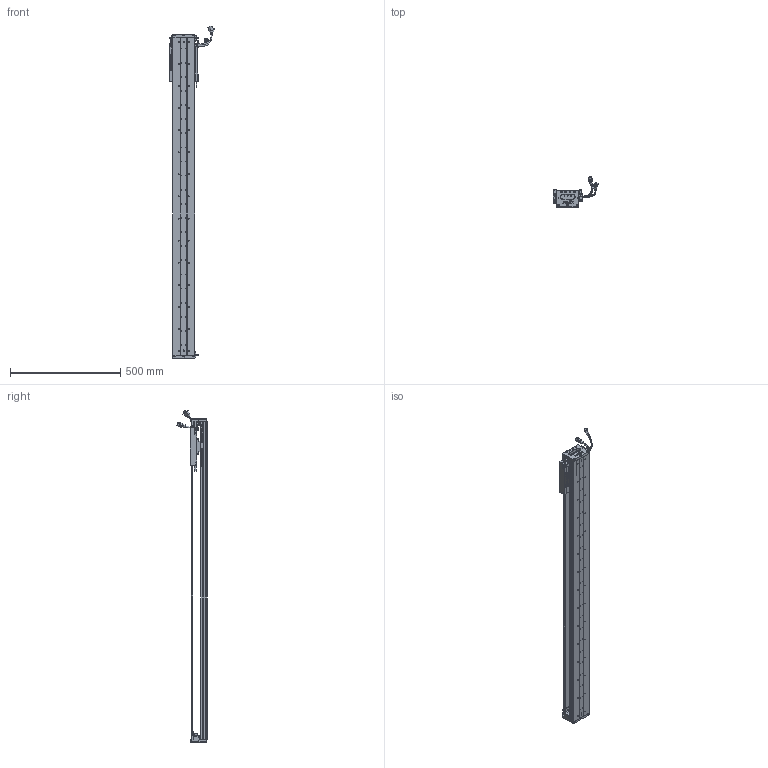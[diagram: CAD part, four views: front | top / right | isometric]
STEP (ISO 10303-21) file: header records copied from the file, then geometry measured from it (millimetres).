
FILE_DESCRIPTION (( 'STEP AP203' ), '1' );
FILE_NAME ('Z2-RY100D-1-L500-B-K.SLDASM_1200.step', '2021-05-17T02:36:05', ( '盈信电脑' ), ( '东莞市道滘镇水果街19号' ), 'SwSTEP 2.0', 'SolidWorks 2016', '' );
FILE_SCHEMA (( 'CONFIG_CONTROL_DESIGN' ));
Length unit declared in the file: millimetre
Products named in the file (36): Z-100詩湍傷裔啣; SCREW-M1.6-3; Z2-RY100铝滑块（21款）; HARNESS-Part-1; HARNESS-Part-2; SCALE-Part-2; LABEL-Part-1; SHIELDPLATE; COVER-Part-1; 100-Z-臏賑輸盄裔(21遴); SCREW-M1.6; SCREW-M1.6-1; HARNESS; SCREW-M1.7-1; SCALE; Z-RY100D覜茼んえ; LABEL; PSLH080_PSLF2; 080黍杅芛假蚾釱21遴; COVER; SCREW-M1.6-2; Z-RY100D詩湍狟揤裔; PBU_SHEET; HOLDER0; Z2-RY100D-1-L500-B-K.SLDASM_1200; 榋妏寠巭燃_暯_M2_2; SEAL; 140蚥薯蝶輸; Z-RY100D詩湍奻揤裔; SCALE-Part-1; 覜茼ん672; SEAL-Part-1; Z2-RY100D-500-倰第菁釱_1200; SCREW-M1.7; Z2-RY100-L500詩湍90mm遵_1200; 140雄赽晤鎢ん堤盄
Assembly tree (43 placements, depth 4):
  Z2-RY100D-1-L500-B-K.SLDASM_1200
    Z2-RY100D-500-倰第菁釱_1200
    Z2-RY100铝滑块（21款）
    PSLH080_PSLF2
      SCALE
        SCALE-Part-1
        SCALE-Part-2
      HARNESS
        HARNESS-Part-1
        HARNESS-Part-2
      LABEL
        LABEL-Part-1
      COVER
        COVER-Part-1
      SEAL
        SEAL-Part-1
      榋妏寠巭燃_暯_M2_2
      SHIELDPLATE
      SCREW-M1.7
      SCREW-M1.7-1
      PBU_SHEET
      SCREW-M1.6
      SCREW-M1.6-1
      SCREW-M1.6-2
      SCREW-M1.6-3
      HOLDER0
    080黍杅芛假蚾釱21遴
    Z-100詩湍傷裔啣  x2
    140蚥薯蝶輸  x2
    覜茼ん672  x3
    Z-RY100D覜茼んえ  x3
    100-Z-臏賑輸盄裔(21遴)
    140雄赽晤鎢ん堤盄
    Z2-RY100-L500詩湍90mm遵_1200
    Z-RY100D詩湍狟揤裔  x2
    Z-RY100D詩湍奻揤裔  x2
Bounding box: 205.84 x 136.11 x 1505.43 mm (x, y, z)
Volume: 2928633.1 mm3; surface area: 1146095.6 mm2
Topology: 38 solids, 38 shells, 2676 faces, 7107 edges, 4512 vertices
Faces by surface type: cylinder 1198, plane 1138, cone 218, torus 69, bspline 53
Entity records: 74079 total; most frequent: CARTESIAN_POINT 15620, DIRECTION 11771, ORIENTED_EDGE 11110, EDGE_CURVE 5555, AXIS2_PLACEMENT_3D 4351, VERTEX_POINT 3580, LINE 3069, VECTOR 3069
